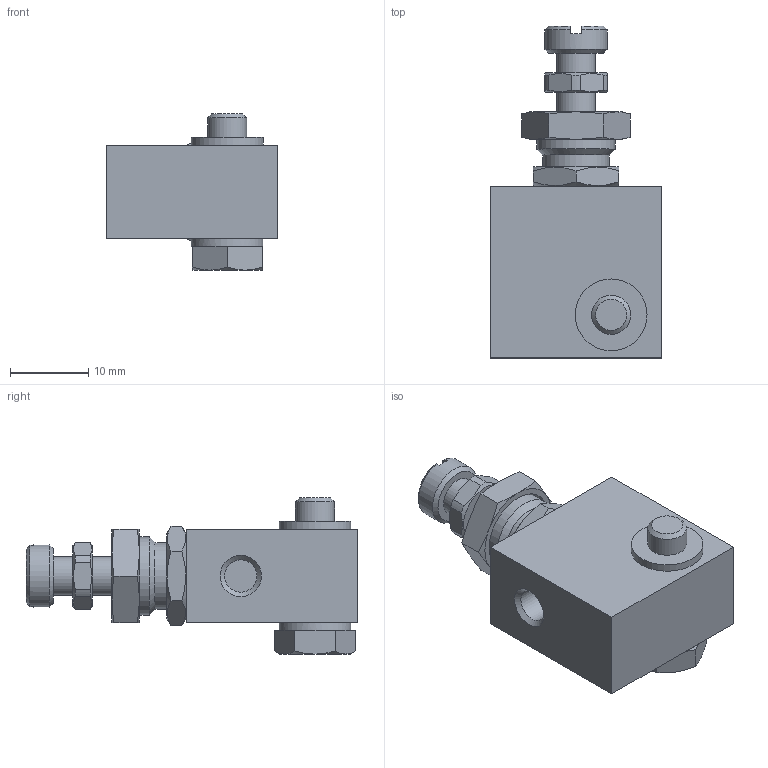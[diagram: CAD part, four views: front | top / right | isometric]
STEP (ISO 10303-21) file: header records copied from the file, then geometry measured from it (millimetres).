
FILE_DESCRIPTION(/* description */ (''),/* implementation_level */ '2;1');
FILE_NAME(/* name */ 'I:\Area Tecnica\Disegni\VARIE-3D\Componenti\600\6_01_05_##\6_01_05_180.stp',/* time_stamp */ '2017-01-04T08:25:56+01:00',/* author */ ('maniean1'),/* organization */ ('Pneumax S.p.A.'),/* preprocessor_version */ 'ST-DEVELOPER v15.2',/* originating_system */ 'Autodesk Inventor 2014',/* authorisation */ '');
FILE_SCHEMA (('AUTOMOTIVE_DESIGN { 1 0 10303 214 3 1 1 }'));
Length unit declared in the file: millimetre
Products named in the file (3): 6_01_05_180-#(A); 6_01_05_(B); 6_01_05_180
Bounding box: 22 x 42.5 x 20 mm (x, y, z)
Volume: 7479.3 mm3; surface area: 3319.3 mm2
Topology: 2 solids, 2 shells, 105 faces, 236 edges, 145 vertices
Faces by surface type: plane 58, cone 31, cylinder 16
Full cylindrical faces by diameter (mm): 4.134 x1, 5 x3, 8 x1, 8.5 x1, 8.917 x1, 9.2 x2, 10 x1
Entity records: 2830 total; most frequent: CARTESIAN_POINT 584, DIRECTION 440, ORIENTED_EDGE 416, EDGE_CURVE 208, AXIS2_PLACEMENT_3D 186, EDGE_LOOP 138, VERTEX_POINT 138, ADVANCED_FACE 105
